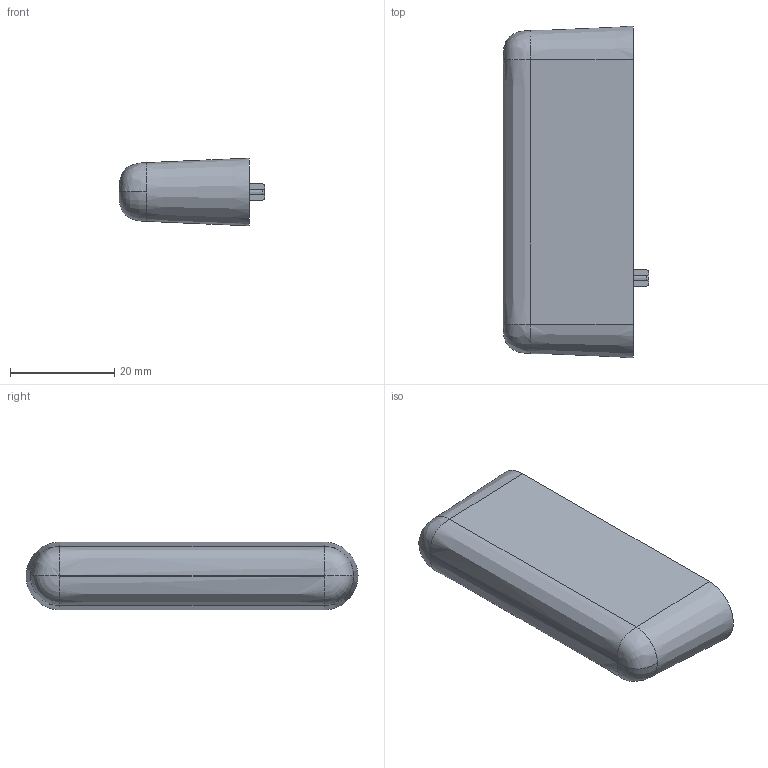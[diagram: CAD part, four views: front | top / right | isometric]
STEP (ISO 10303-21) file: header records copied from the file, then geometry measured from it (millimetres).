
FILE_DESCRIPTION((''),'2;1');
FILE_NAME('YC_SJ_ZS003629_01-_ASM','2026-03-20T16:38:45',('casson.cai'),(''),'CREO PARAMETRIC BY PTC INC, 2022164','CREO PARAMETRIC BY PTC INC, 2022164','');
FILE_SCHEMA(('CONFIG_CONTROL_DESIGN'));
Length unit declared in the file: millimetre
Products named in the file (3): YC_SJ_ZS003629_01-; M5-12-7-CU-NUT; YC_SJ_ZS003629_01-_ASM
Assembly tree (3 placements, depth 2):
  YC_SJ_ZS003629_01-_ASM
    YC_SJ_ZS003629_01-
    M5-12-7-CU-NUT  x2
Bounding box: 28 x 63.72 x 13 mm (x, y, z)
Volume: 11109.1 mm3; surface area: 10711.2 mm2
Topology: 3 solids, 3 shells, 923 faces, 2699 edges, 1793 vertices
Faces by surface type: plane 586, cylinder 287, cone 21, extrusion 14, bspline 10, revolution 4, torus 1
Entity records: 22019 total; most frequent: CARTESIAN_POINT 8564, ORIENTED_EDGE 2912, DIRECTION 2670, EDGE_CURVE 1456, VECTOR 1064, LINE 1050, VERTEX_POINT 968, AXIS2_PLACEMENT_3D 801
